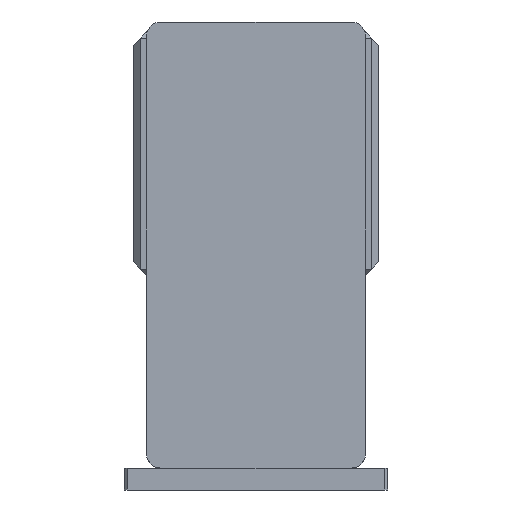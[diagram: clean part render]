
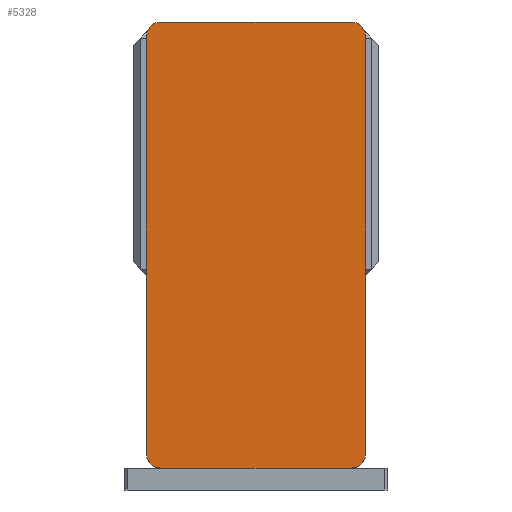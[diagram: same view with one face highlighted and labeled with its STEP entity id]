
A CAD part, left-side view. The second image highlights one B-rep face of the part: STEP entity #5328.
In plain terms, the highlighted planar face has unit normal (-1, 0, 0) as drawn and (0, 0, 1) by its records, which use the part's own axes.
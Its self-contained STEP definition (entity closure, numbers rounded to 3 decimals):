
#111 = VERTEX_POINT ( 'NONE', #7687 ) ;
#300 = LINE ( 'NONE', #8863, #4376 ) ;
#349 = ORIENTED_EDGE ( 'NONE', *, *, #3944, .T. ) ;
#639 = DIRECTION ( 'NONE',  ( 1., 0., 0. ) ) ;
#658 = DIRECTION ( 'NONE',  ( 0., 0., 1. ) ) ;
#696 = PLANE ( 'NONE',  #1142 ) ;
#994 = CARTESIAN_POINT ( 'NONE',  ( 0., 0., 105. ) ) ;
#1142 = AXIS2_PLACEMENT_3D ( 'NONE', #994, #658, #639 ) ;
#1216 = ORIENTED_EDGE ( 'NONE', *, *, #2741, .T. ) ;
#2093 = EDGE_CURVE ( 'NONE', #4385, #6284, #7582, .T. ) ;
#2270 = CARTESIAN_POINT ( 'NONE',  ( -75., 152.5, 105. ) ) ;
#2490 = DIRECTION ( 'NONE',  ( 1., 0., 0. ) ) ;
#2568 = ORIENTED_EDGE ( 'NONE', *, *, #2912, .T. ) ;
#2741 = EDGE_CURVE ( 'NONE', #10306, #9692, #6444, .T. ) ;
#2883 = CIRCLE ( 'NONE', #4616, 10. ) ;
#2912 = EDGE_CURVE ( 'NONE', #3112, #9640, #9505, .T. ) ;
#3107 = ORIENTED_EDGE ( 'NONE', *, *, #4346, .T. ) ;
#3112 = VERTEX_POINT ( 'NONE', #8847 ) ;
#3366 = EDGE_CURVE ( 'NONE', #7682, #111, #300, .T. ) ;
#3710 = CARTESIAN_POINT ( 'NONE',  ( 75., 152.5, 105. ) ) ;
#3794 = EDGE_CURVE ( 'NONE', #111, #10306, #5447, .T. ) ;
#3944 = EDGE_CURVE ( 'NONE', #9692, #4385, #10950, .T. ) ;
#4272 = EDGE_CURVE ( 'NONE', #6284, #3112, #5965, .T. ) ;
#4346 = EDGE_CURVE ( 'NONE', #9640, #7682, #2883, .T. ) ;
#4376 = VECTOR ( 'NONE', #6897, 1000. ) ;
#4385 = VERTEX_POINT ( 'NONE', #6418 ) ;
#4557 = ORIENTED_EDGE ( 'NONE', *, *, #3366, .T. ) ;
#4616 = AXIS2_PLACEMENT_3D ( 'NONE', #7423, #7339, #7264 ) ;
#4880 = DIRECTION ( 'NONE',  ( 0., 1., 0. ) ) ;
#5119 = AXIS2_PLACEMENT_3D ( 'NONE', #9525, #9488, #9455 ) ;
#5162 = DIRECTION ( 'NONE',  ( 0., -1., 0. ) ) ;
#5328 = ADVANCED_FACE ( 'NONE', ( #7720 ), #696, .T. ) ;
#5447 = CIRCLE ( 'NONE', #7175, 10. ) ;
#5560 = VECTOR ( 'NONE', #6828, 1000. ) ;
#5689 = EDGE_LOOP ( 'NONE', ( #4557, #9093, #1216, #349, #7640, #10819, #2568, #3107 ) ) ;
#5951 = CARTESIAN_POINT ( 'NONE',  ( 75., 142.5, 105. ) ) ;
#5965 = CIRCLE ( 'NONE', #5119, 10. ) ;
#6284 = VERTEX_POINT ( 'NONE', #9834 ) ;
#6418 = CARTESIAN_POINT ( 'NONE',  ( 65., 152.5, 105. ) ) ;
#6444 = LINE ( 'NONE', #3710, #8839 ) ;
#6549 = AXIS2_PLACEMENT_3D ( 'NONE', #9091, #9018, #8994 ) ;
#6828 = DIRECTION ( 'NONE',  ( -1., 0., 0. ) ) ;
#6897 = DIRECTION ( 'NONE',  ( 1., 0., 0. ) ) ;
#7120 = VECTOR ( 'NONE', #5162, 1000. ) ;
#7175 = AXIS2_PLACEMENT_3D ( 'NONE', #9133, #10562, #2490 ) ;
#7264 = DIRECTION ( 'NONE',  ( 1., 0., 0. ) ) ;
#7339 = DIRECTION ( 'NONE',  ( 0., 0., 1. ) ) ;
#7423 = CARTESIAN_POINT ( 'NONE',  ( -65., -142.5, 105. ) ) ;
#7446 = CARTESIAN_POINT ( 'NONE',  ( -65., -152.5, 105. ) ) ;
#7577 = CARTESIAN_POINT ( 'NONE',  ( -75., 152.5, 105. ) ) ;
#7582 = LINE ( 'NONE', #7577, #5560 ) ;
#7640 = ORIENTED_EDGE ( 'NONE', *, *, #2093, .T. ) ;
#7682 = VERTEX_POINT ( 'NONE', #7446 ) ;
#7687 = CARTESIAN_POINT ( 'NONE',  ( 65., -152.5, 105. ) ) ;
#7720 = FACE_OUTER_BOUND ( 'NONE', #5689, .T. ) ;
#8533 = CARTESIAN_POINT ( 'NONE',  ( -75., -142.5, 105. ) ) ;
#8839 = VECTOR ( 'NONE', #4880, 1000. ) ;
#8847 = CARTESIAN_POINT ( 'NONE',  ( -75., 142.5, 105. ) ) ;
#8863 = CARTESIAN_POINT ( 'NONE',  ( -75., -152.5, 105. ) ) ;
#8994 = DIRECTION ( 'NONE',  ( 1., 0., 0. ) ) ;
#9018 = DIRECTION ( 'NONE',  ( 0., 0., 1. ) ) ;
#9091 = CARTESIAN_POINT ( 'NONE',  ( 65., 142.5, 105. ) ) ;
#9093 = ORIENTED_EDGE ( 'NONE', *, *, #3794, .T. ) ;
#9133 = CARTESIAN_POINT ( 'NONE',  ( 65., -142.5, 105. ) ) ;
#9455 = DIRECTION ( 'NONE',  ( 1., 0., 0. ) ) ;
#9488 = DIRECTION ( 'NONE',  ( 0., 0., 1. ) ) ;
#9505 = LINE ( 'NONE', #2270, #7120 ) ;
#9525 = CARTESIAN_POINT ( 'NONE',  ( -65., 142.5, 105. ) ) ;
#9640 = VERTEX_POINT ( 'NONE', #8533 ) ;
#9692 = VERTEX_POINT ( 'NONE', #5951 ) ;
#9834 = CARTESIAN_POINT ( 'NONE',  ( -65., 152.5, 105. ) ) ;
#10306 = VERTEX_POINT ( 'NONE', #10323 ) ;
#10323 = CARTESIAN_POINT ( 'NONE',  ( 75., -142.5, 105. ) ) ;
#10562 = DIRECTION ( 'NONE',  ( 0., 0., 1. ) ) ;
#10819 = ORIENTED_EDGE ( 'NONE', *, *, #4272, .T. ) ;
#10950 = CIRCLE ( 'NONE', #6549, 10. ) ;
